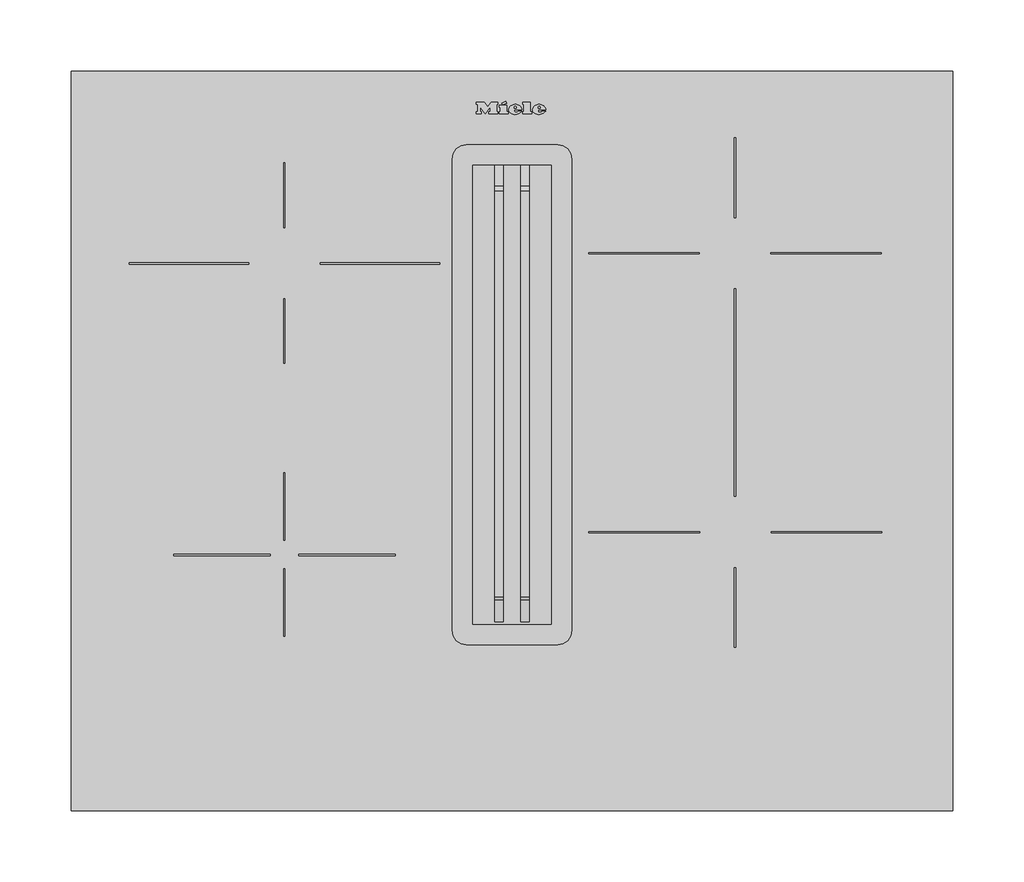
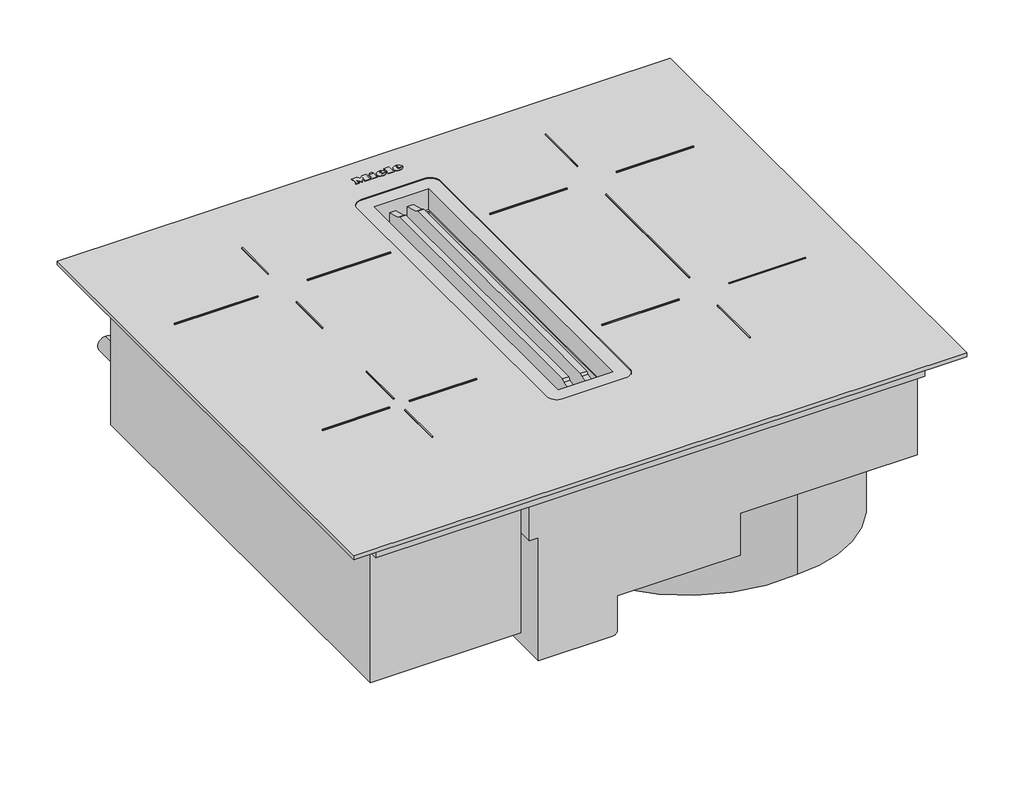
# Not in any storey: 1 proxy.
"""IFC4 building model written with IfcOpenShell, lengths in millimetres."""

from ifc_helpers import new_model, si_unit, origin, place, context, project, spatial, transform, mapped, element, save
from components import specialty_equipment_407eca65

model = new_model("IFC4")

# Units and contexts
model_context = context("Model", 3, world=origin())
ifc_project = project(units=[si_unit("LENGTHUNIT", "METRE", prefix="MILLI")], contexts=[model_context])

# Site, building
site = spatial("IfcSite", under=ifc_project)
building = spatial("IfcBuilding", under=site)

# Proxy
placement = place(None, origin())
specialty_equipment_shape = specialty_equipment_407eca65(model_context)
element("IfcBuildingElementProxy", 1, Name="13161670_GB_KMDA5649FL_MASW : 26D56494_GB_13161670_KMDA5649FL_MASW", ObjectType="13161670_GB_KMDA5649FL_MASW : 26D56494_GB_13161670_KMDA5649FL_MASW", at=placement, inside=building, context=model_context, shape_type="MappedRepresentation", body=[
    mapped(specialty_equipment_shape, transform((0.0, 0.0, 0.0), x_axis=(1.0, 0.0, 0.0), y_axis=(0.0, 1.0, 0.0), z_axis=(0.0, 0.0, 1.0))),
])

save(model, "model.ifc")
